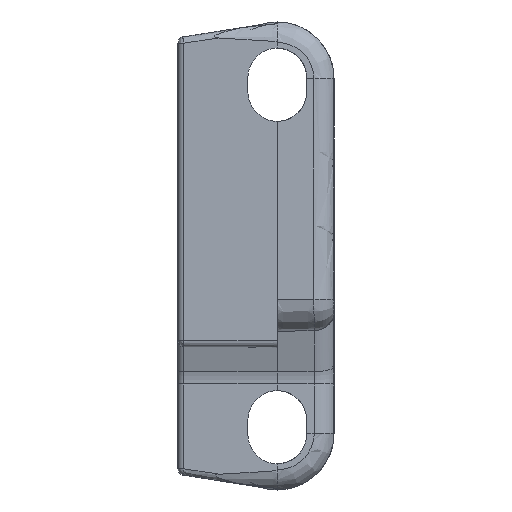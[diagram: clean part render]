
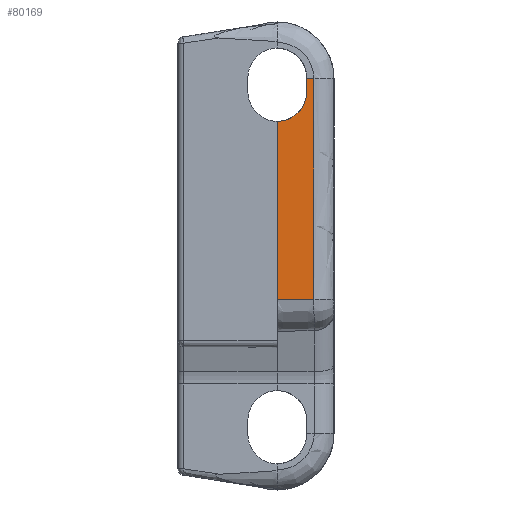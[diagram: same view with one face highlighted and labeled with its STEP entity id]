
A CAD part, left-side view. The second image highlights one B-rep face of the part: STEP entity #80169.
In plain terms, the highlighted planar face has unit normal (-1, -0.018, 0).
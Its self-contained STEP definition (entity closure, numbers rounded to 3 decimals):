
#398=DIRECTION('',(0.,0.,-1.));
#399=VECTOR('',#398,1.85);
#400=CARTESIAN_POINT('',(-152.168,-4.15,25.));
#401=LINE('',#400,#399);
#402=DIRECTION('',(-0.017,1.,0.));
#403=VECTOR('',#402,1.022);
#404=CARTESIAN_POINT('',(-152.15,-5.172,25.));
#405=LINE('',#404,#403);
#406=DIRECTION('',(0.,0.,-1.));
#407=VECTOR('',#406,31.12);
#408=CARTESIAN_POINT('',(-152.15,-5.172,25.));
#409=LINE('',#408,#407);
#410=DIRECTION('',(0.,0.,1.));
#411=VECTOR('',#410,25.12);
#412=CARTESIAN_POINT('',(-152.24,0.,-6.12));
#413=LINE('',#412,#411);
#414=CARTESIAN_POINT('',(-152.168,-4.15,23.15));
#415=CARTESIAN_POINT('',(-152.168,-4.15,22.804));
#416=CARTESIAN_POINT('',(-152.169,-4.068,22.194));
#417=CARTESIAN_POINT('',(-152.175,-3.711,21.168));
#418=CARTESIAN_POINT('',(-152.188,-2.993,20.157));
#419=CARTESIAN_POINT('',(-152.205,-1.982,19.439));
#420=CARTESIAN_POINT('',(-152.223,-0.956,
19.082));
#421=CARTESIAN_POINT('',(-152.234,-0.346,19.));
#422=CARTESIAN_POINT('',(-152.24,0.,19.));
#983=DIRECTION('',(0.017,-1.,0.));
#984=VECTOR('',#983,5.173);
#985=CARTESIAN_POINT('',(-152.24,0.,-6.12));
#986=LINE('',#985,#984);
#1049=CARTESIAN_POINT('',(-152.15,-5.172,-6.12));
#1080=CARTESIAN_POINT('',(-152.15,-5.172,25.));
#69479=CARTESIAN_POINT('',(-152.168,-4.15,23.15));
#69481=VERTEX_POINT('',#69479);
#72827=VERTEX_POINT('',#1049);
#72832=VERTEX_POINT('',#1080);
#75322=CARTESIAN_POINT('',(-152.168,-4.15,25.));
#75323=VERTEX_POINT('',#75322);
#75324=VERTEX_POINT('',#422);
#75990=CARTESIAN_POINT('',(-152.24,0.,-6.12));
#75991=VERTEX_POINT('',#75990);
#80152=CARTESIAN_POINT('',(-152.195,-2.583,9.44));
#80153=DIRECTION('',(1.,0.017,0.));
#80154=DIRECTION('',(-0.017,1.,0.));
#80155=AXIS2_PLACEMENT_3D('',#80152,#80153,#80154);
#80156=PLANE('',#80155);
#80157=ORIENTED_EDGE('',*,*,#79006,.F.);
#80159=ORIENTED_EDGE('',*,*,#80158,.F.);
#80161=ORIENTED_EDGE('',*,*,#80160,.T.);
#80163=ORIENTED_EDGE('',*,*,#80162,.F.);
#80165=ORIENTED_EDGE('',*,*,#80164,.T.);
#80166=ORIENTED_EDGE('',*,*,#79848,.F.);
#80167=EDGE_LOOP('',(#80157,#80159,#80161,#80163,#80165,#80166));
#80168=FACE_OUTER_BOUND('',#80167,.F.);
#423=B_SPLINE_CURVE_WITH_KNOTS('',3,(#414,#415,#416,#417,#418,#419,#420,#421,
#422),.UNSPECIFIED.,.F.,.F.,(4,1,1,1,1,1,4),(0.,0.125,0.25,0.5,0.75,
0.875,1.),.UNSPECIFIED.);
#79006=EDGE_CURVE('',#75323,#69481,#401,.T.);
#79848=EDGE_CURVE('',#69481,#75324,#423,.T.);
#80158=EDGE_CURVE('',#72832,#75323,#405,.T.);
#80160=EDGE_CURVE('',#72832,#72827,#409,.T.);
#80162=EDGE_CURVE('',#75991,#72827,#986,.T.);
#80164=EDGE_CURVE('',#75991,#75324,#413,.T.);
#80169=ADVANCED_FACE('',(#80168),#80156,.F.);
